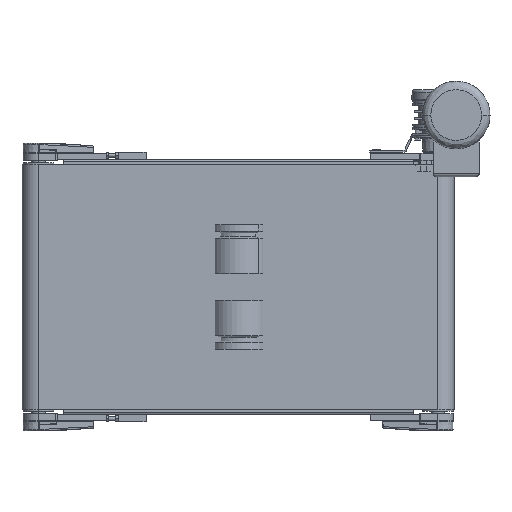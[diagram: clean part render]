
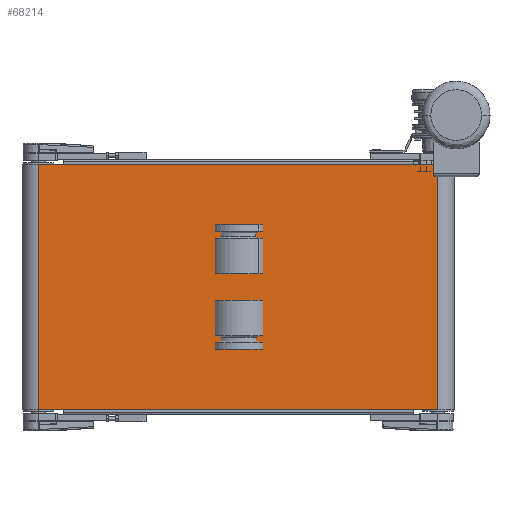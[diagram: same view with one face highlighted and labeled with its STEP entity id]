
A CAD part, front view. The second image highlights one B-rep face of the part: STEP entity #68214.
In plain terms, the highlighted planar face has unit normal (0, -1, 0).
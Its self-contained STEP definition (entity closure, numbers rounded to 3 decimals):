
#1685 = CARTESIAN_POINT ( 'NONE',  ( 325., -27., 200. ) ) ;
#6473 = ORIENTED_EDGE ( 'NONE', *, *, #108068, .T. ) ;
#9915 = PLANE ( 'NONE',  #100375 ) ;
#15415 = CARTESIAN_POINT ( 'NONE',  ( 325., -27., 200. ) ) ;
#23562 = ORIENTED_EDGE ( 'NONE', *, *, #54557, .F. ) ;
#24962 = CARTESIAN_POINT ( 'NONE',  ( -325., -27., 200. ) ) ;
#27195 = EDGE_CURVE ( 'NONE', #94031, #68152, #80741, .T. ) ;
#28702 = CARTESIAN_POINT ( 'NONE',  ( -325., -27., 200. ) ) ;
#36539 = VECTOR ( 'NONE', #117752, 1000. ) ;
#37801 = FACE_OUTER_BOUND ( 'NONE', #69488, .T. ) ;
#39707 = EDGE_CURVE ( 'NONE', #94031, #118765, #116514, .T. ) ;
#40103 = CARTESIAN_POINT ( 'NONE',  ( -325., -27., -200. ) ) ;
#41990 = CARTESIAN_POINT ( 'NONE',  ( -325., -27., -200. ) ) ;
#47013 = ORIENTED_EDGE ( 'NONE', *, *, #39707, .T. ) ;
#54074 = DIRECTION ( 'NONE',  ( 1., 0., 0. ) ) ;
#54557 = EDGE_CURVE ( 'NONE', #68152, #95616, #104705, .T. ) ;
#55332 = CARTESIAN_POINT ( 'NONE',  ( 325., -27., -200. ) ) ;
#56958 = ORIENTED_EDGE ( 'NONE', *, *, #27195, .F. ) ;
#62954 = CARTESIAN_POINT ( 'NONE',  ( -325., -27., 200. ) ) ;
#65790 = VECTOR ( 'NONE', #70420, 1000. ) ;
#68152 = VERTEX_POINT ( 'NONE', #15415 ) ;
#68214 = ADVANCED_FACE ( 'NONE', ( #37801 ), #9915, .F. ) ;
#69488 = EDGE_LOOP ( 'NONE', ( #6473, #23562, #56958, #47013 ) ) ;
#70420 = DIRECTION ( 'NONE',  ( 0., 0., -1. ) ) ;
#80741 = LINE ( 'NONE', #91039, #109545 ) ;
#81350 = LINE ( 'NONE', #41990, #36539 ) ;
#82653 = DIRECTION ( 'NONE',  ( 0., 1., 0. ) ) ;
#84783 = VECTOR ( 'NONE', #114398, 1000. ) ;
#91039 = CARTESIAN_POINT ( 'NONE',  ( -325., -27., 200. ) ) ;
#94031 = VERTEX_POINT ( 'NONE', #62954 ) ;
#95616 = VERTEX_POINT ( 'NONE', #55332 ) ;
#100375 = AXIS2_PLACEMENT_3D ( 'NONE', #28702, #82653, #101460 ) ;
#101460 = DIRECTION ( 'NONE',  ( 0., 0., 1. ) ) ;
#104705 = LINE ( 'NONE', #1685, #84783 ) ;
#108068 = EDGE_CURVE ( 'NONE', #118765, #95616, #81350, .T. ) ;
#109545 = VECTOR ( 'NONE', #54074, 1000. ) ;
#114398 = DIRECTION ( 'NONE',  ( 0., 0., -1. ) ) ;
#116514 = LINE ( 'NONE', #24962, #65790 ) ;
#117752 = DIRECTION ( 'NONE',  ( 1., 0., 0. ) ) ;
#118765 = VERTEX_POINT ( 'NONE', #40103 ) ;
